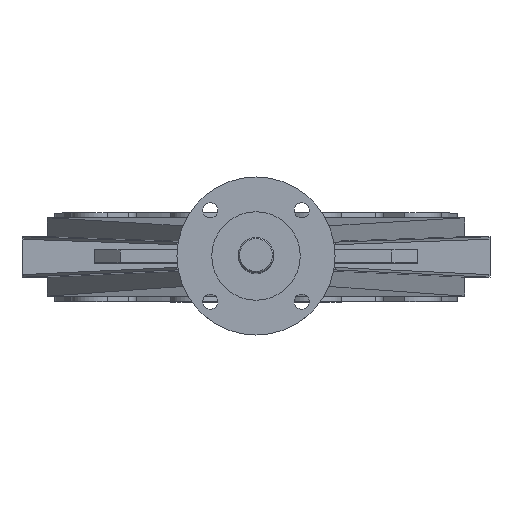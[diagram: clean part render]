
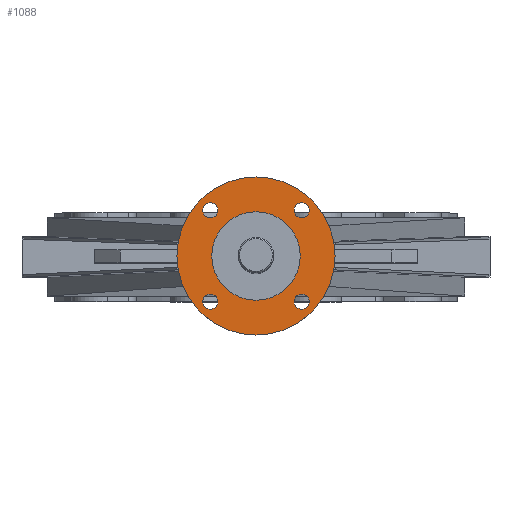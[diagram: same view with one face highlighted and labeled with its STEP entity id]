
A CAD part, top view. The second image highlights one B-rep face of the part: STEP entity #1088.
In plain terms, the highlighted planar face has unit normal (0, 0, 1).
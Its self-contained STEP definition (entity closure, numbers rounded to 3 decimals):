
#1088=ADVANCED_FACE('',(#2701,#2703,#2705,#2707,#2709,#2711),#2713,.T.);
#2701=FACE_BOUND('',#2702,.T.);
#2702=EDGE_LOOP('',(#4059));
#2703=FACE_BOUND('',#2704,.T.);
#2704=EDGE_LOOP('',(#4060));
#2705=FACE_BOUND('',#2706,.T.);
#2706=EDGE_LOOP('',(#4061));
#2707=FACE_BOUND('',#2708,.T.);
#2708=EDGE_LOOP('',(#4062));
#2709=FACE_BOUND('',#2710,.T.);
#2710=EDGE_LOOP('',(#4063));
#2711=FACE_BOUND('',#2712,.T.);
#2712=EDGE_LOOP('',(#4064));
#2713=PLANE('',#2714);
#2714=AXIS2_PLACEMENT_3D('',#2715,#2716,#2717);
#2715=CARTESIAN_POINT('',(0.,0.,627.));
#2716=DIRECTION('',(0.,0.,1.));
#2717=DIRECTION('',(-1.,0.,0.));
#4059=ORIENTED_EDGE('',*,*,#4611,.T.);
#4060=ORIENTED_EDGE('',*,*,#4612,.T.);
#4061=ORIENTED_EDGE('',*,*,#4613,.T.);
#4062=ORIENTED_EDGE('',*,*,#4614,.T.);
#4063=ORIENTED_EDGE('',*,*,#4767,.T.);
#4064=ORIENTED_EDGE('',*,*,#4615,.T.);
#4611=EDGE_CURVE('',#5313,#5313,#5314,.T.);
#4612=EDGE_CURVE('',#5315,#5315,#5316,.F.);
#4613=EDGE_CURVE('',#5317,#5317,#5318,.F.);
#4614=EDGE_CURVE('',#5319,#5319,#5320,.F.);
#4615=EDGE_CURVE('',#5321,#5321,#5322,.F.);
#4767=EDGE_CURVE('',#5592,#5592,#5593,.F.);
#5313=VERTEX_POINT('',#6789);
#5314=CIRCLE('',#6790,62.5);
#5315=VERTEX_POINT('',#6794);
#5316=CIRCLE('',#6795,6.);
#5317=VERTEX_POINT('',#6799);
#5318=CIRCLE('',#6800,6.);
#5319=VERTEX_POINT('',#6804);
#5320=CIRCLE('',#6805,6.);
#5321=VERTEX_POINT('',#6809);
#5322=CIRCLE('',#6810,6.);
#5592=VERTEX_POINT('',#7462);
#5593=CIRCLE('',#7463,35.);
#6789=CARTESIAN_POINT('',(-62.5,0.,627.));
#6790=AXIS2_PLACEMENT_3D('',#6791,#6792,#6793);
#6791=CARTESIAN_POINT('',(0.,0.,627.));
#6792=DIRECTION('',(0.,0.,1.));
#6793=DIRECTION('',(-1.,0.,0.));
#6794=CARTESIAN_POINT('',(-42.062,-36.062,627.));
#6795=AXIS2_PLACEMENT_3D('',#6796,#6797,#6798);
#6796=CARTESIAN_POINT('',(-36.062,-36.062,627.));
#6797=DIRECTION('',(0.,0.,1.));
#6798=DIRECTION('',(-1.,0.,0.));
#6799=CARTESIAN_POINT('',(36.062,-42.062,627.));
#6800=AXIS2_PLACEMENT_3D('',#6801,#6802,#6803);
#6801=CARTESIAN_POINT('',(36.062,-36.062,627.));
#6802=DIRECTION('',(0.,0.,1.));
#6803=DIRECTION('',(0.,-1.,0.));
#6804=CARTESIAN_POINT('',(42.062,36.062,627.));
#6805=AXIS2_PLACEMENT_3D('',#6806,#6807,#6808);
#6806=CARTESIAN_POINT('',(36.062,36.062,627.));
#6807=DIRECTION('',(0.,0.,1.));
#6808=DIRECTION('',(1.,0.,-0.));
#6809=CARTESIAN_POINT('',(-36.062,42.062,627.));
#6810=AXIS2_PLACEMENT_3D('',#6811,#6812,#6813);
#6811=CARTESIAN_POINT('',(-36.062,36.062,627.));
#6812=DIRECTION('',(0.,0.,1.));
#6813=DIRECTION('',(0.,1.,0.));
#7462=CARTESIAN_POINT('',(0.,35.,627.));
#7463=AXIS2_PLACEMENT_3D('',#7464,#7465,#7466);
#7464=CARTESIAN_POINT('',(0.,0.,627.));
#7465=DIRECTION('',(0.,0.,1.));
#7466=DIRECTION('',(0.,1.,0.));
